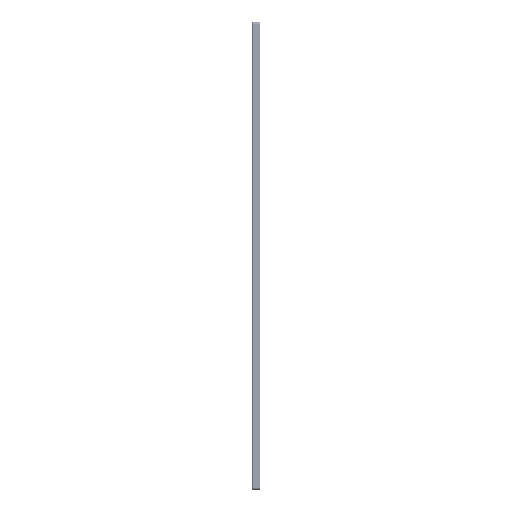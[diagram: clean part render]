
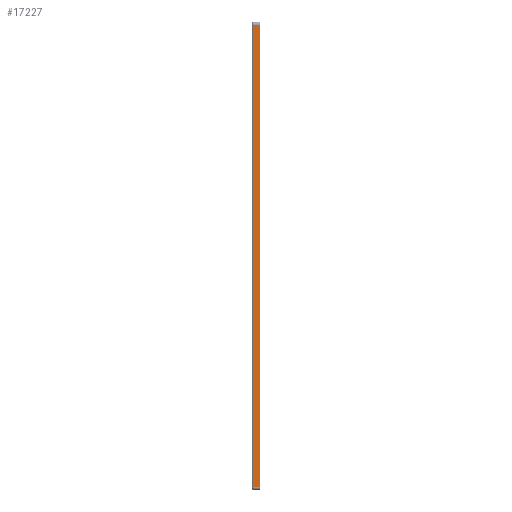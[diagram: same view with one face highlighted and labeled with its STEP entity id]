
A CAD part, left-side view. The second image highlights one B-rep face of the part: STEP entity #17227.
In plain terms, the highlighted planar face has unit normal (-1, 0, 0).
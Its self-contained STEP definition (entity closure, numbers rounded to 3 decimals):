
#5019 = ORIENTED_EDGE ( 'NONE', *, *, #34135, .T. ) ;
#5105 = ORIENTED_EDGE ( 'NONE', *, *, #34132, .T. ) ;
#5167 = ORIENTED_EDGE ( 'NONE', *, *, #34129, .T. ) ;
#5219 = ORIENTED_EDGE ( 'NONE', *, *, #34126, .T. ) ;
#14562 = PLANE ( 'NONE',  #35079 ) ;
#14574 = CARTESIAN_POINT ( 'NONE',  ( -600., 16., 450. ) ) ;
#14577 = DIRECTION ( 'NONE',  ( 1., 0., 0. ) ) ;
#14579 = DIRECTION ( 'NONE',  ( 0., 0., -1. ) ) ;
#17227 = ADVANCED_FACE ( 'NONE', ( #22711 ), #14562, .F. ) ;
#19980 = VERTEX_POINT ( 'NONE', #38060 ) ;
#19981 = VERTEX_POINT ( 'NONE', #38061 ) ;
#19983 = VERTEX_POINT ( 'NONE', #38065 ) ;
#19989 = VERTEX_POINT ( 'NONE', #38076 ) ;
#22711 = FACE_OUTER_BOUND ( 'NONE', #36245, .T. ) ;
#34126 = EDGE_CURVE ( 'NONE', #19983, #19989, #53468, .T. ) ;
#34129 = EDGE_CURVE ( 'NONE', #19989, #19981, #53691, .T. ) ;
#34132 = EDGE_CURVE ( 'NONE', #19981, #19980, #53692, .T. ) ;
#34135 = EDGE_CURVE ( 'NONE', #19980, #19983, #53695, .T. ) ;
#35079 = AXIS2_PLACEMENT_3D ( 'NONE', #14574, #14577, #14579 ) ;
#36245 = EDGE_LOOP ( 'NONE', ( #5219, #5167, #5105, #5019 ) ) ;
#38060 = CARTESIAN_POINT ( 'NONE',  ( -600., 13., 445. ) ) ;
#38061 = CARTESIAN_POINT ( 'NONE',  ( -600., 1., 445. ) ) ;
#38065 = CARTESIAN_POINT ( 'NONE',  ( -600., 13., -445. ) ) ;
#38076 = CARTESIAN_POINT ( 'NONE',  ( -600., 1., -445. ) ) ;
#53468 = LINE ( 'NONE', #54688, #53689 ) ;
#53689 = VECTOR ( 'NONE', #54702, 1000. ) ;
#53691 = LINE ( 'NONE', #54695, #53693 ) ;
#53692 = LINE ( 'NONE', #54707, #53696 ) ;
#53693 = VECTOR ( 'NONE', #54706, 1000. ) ;
#53695 = LINE ( 'NONE', #54712, #53699 ) ;
#53696 = VECTOR ( 'NONE', #54711, 1000. ) ;
#53699 = VECTOR ( 'NONE', #54716, 1000. ) ;
#54688 = CARTESIAN_POINT ( 'NONE',  ( -600., 16., -445. ) ) ;
#54695 = CARTESIAN_POINT ( 'NONE',  ( -600., 1., 450. ) ) ;
#54702 = DIRECTION ( 'NONE',  ( 0., -1., 0. ) ) ;
#54706 = DIRECTION ( 'NONE',  ( 0., 0., 1. ) ) ;
#54707 = CARTESIAN_POINT ( 'NONE',  ( -600., 16., 445. ) ) ;
#54711 = DIRECTION ( 'NONE',  ( 0., 1., 0. ) ) ;
#54712 = CARTESIAN_POINT ( 'NONE',  ( -600., 13., 450. ) ) ;
#54716 = DIRECTION ( 'NONE',  ( 0., 0., -1. ) ) ;
